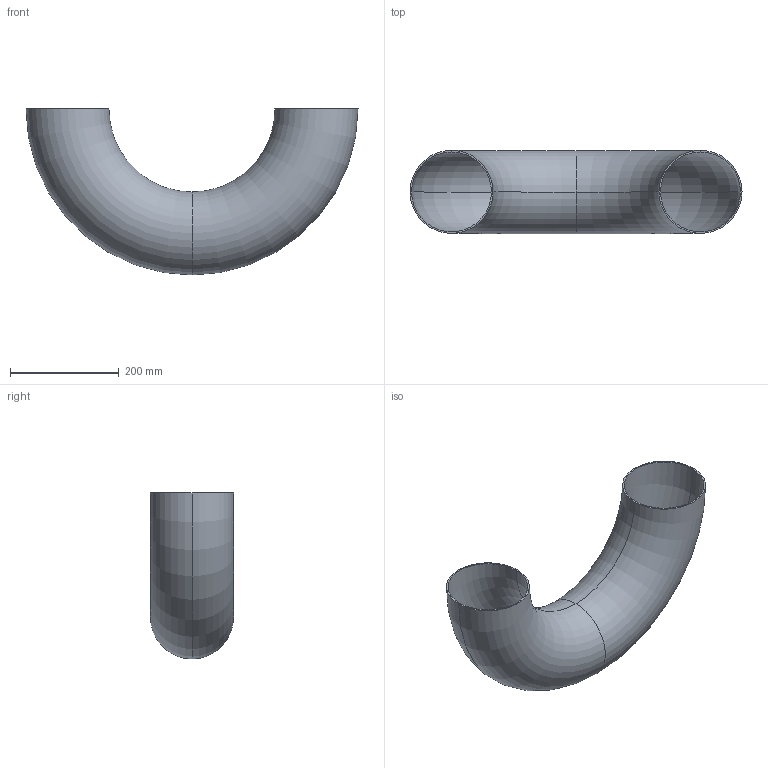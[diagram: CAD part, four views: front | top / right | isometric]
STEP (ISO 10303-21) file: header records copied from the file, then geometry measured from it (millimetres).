
FILE_DESCRIPTION (( 'STEP AP214' ), '1' );
FILE_NAME ('E2WU 6.0 REV1.STEP', '2025-07-03T13:50:49', ( '' ), ( '' ), 'SwSTEP 2.0', 'SolidWorks 2022', '' );
FILE_SCHEMA (( 'AUTOMOTIVE_DESIGN' ));
Length unit declared in the file: inch
Products named in the file (1): E2WU 6.0 REV1
Bounding box: 609.6 x 152.4 x 304.8 mm (x, y, z)
Volume: 934671.3 mm3; surface area: 677797.1 mm2
Topology: 1 solids, 1 shells, 10 faces, 20 edges, 12 vertices
Faces by surface type: torus 8, plane 2
Entity records: 316 total; most frequent: DIRECTION 62, CARTESIAN_POINT 43, ORIENTED_EDGE 40, AXIS2_PLACEMENT_3D 31, EDGE_CURVE 20, CIRCLE 20, VERTEX_POINT 12, EDGE_LOOP 12
